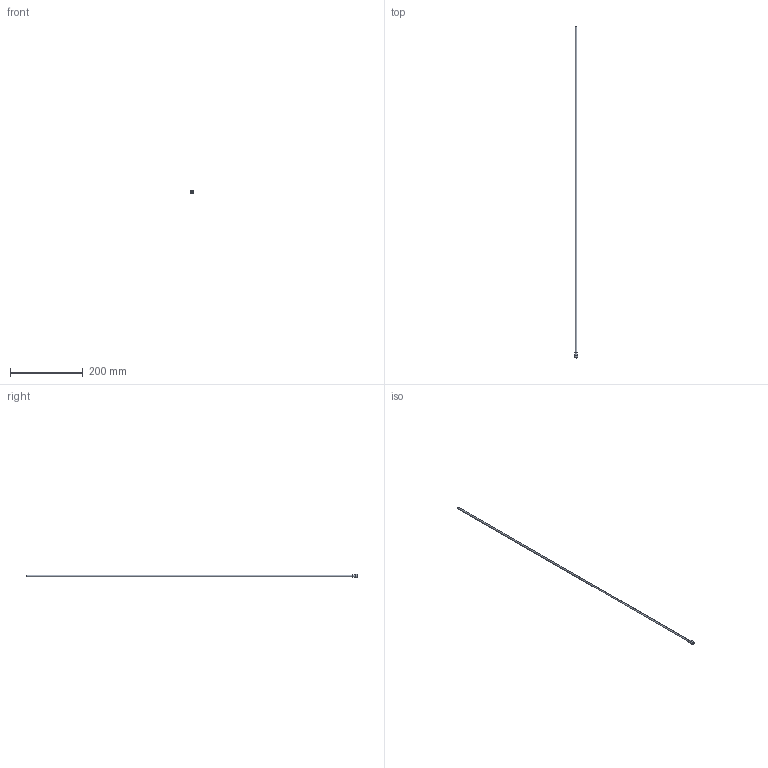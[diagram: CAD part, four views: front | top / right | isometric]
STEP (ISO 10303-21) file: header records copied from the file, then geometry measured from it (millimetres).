
FILE_DESCRIPTION(/* description */ (''),/* implementation_level */ '2;1');
FILE_NAME(/* name */ 'C:/Users/drich/Desktop/JR187T-36 v1.step',/* time_stamp */ '2019-12-30T13:04:37-06:00',/* author */ (''),/* organization */ (''),/* preprocessor_version */ 'ST-DEVELOPER v18',/* originating_system */ 'Autodesk Translation Framework v8.12.0.6',/* authorisation */ '');
FILE_SCHEMA (('AUTOMOTIVE_DESIGN { 1 0 10303 214 3 1 1 }'));
Length unit declared in the file: inch
Products named in the file (1): JR187T-36
Bounding box: 9.4 x 914.4 x 9.4 mm (x, y, z)
Volume: 3586.8 mm3; surface area: 26072.4 mm2
Topology: 1 solids, 1 shells, 19 faces, 47 edges, 33 vertices
Faces by surface type: plane 11, cylinder 4, torus 3, cone 1
Full cylindrical faces by diameter (mm): 4.242 x1, 4.724 x1, 7.818 x1, 9.398 x1
Entity records: 624 total; most frequent: DIRECTION 111, CARTESIAN_POINT 100, ORIENTED_EDGE 94, EDGE_CURVE 47, AXIS2_PLACEMENT_3D 44, VERTEX_POINT 33, EDGE_LOOP 24, CIRCLE 24
